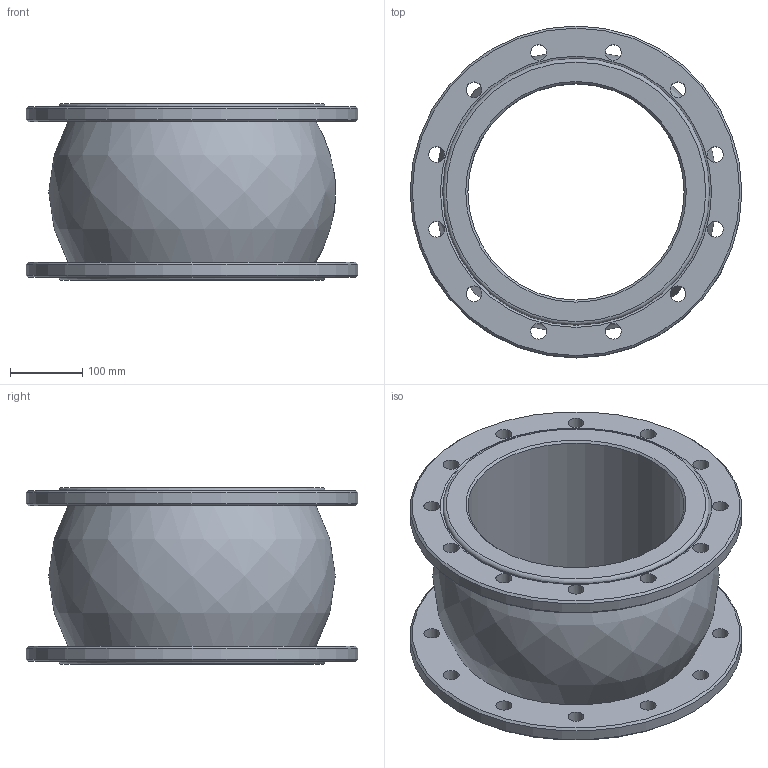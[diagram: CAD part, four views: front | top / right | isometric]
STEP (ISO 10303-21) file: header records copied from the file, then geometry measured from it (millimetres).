
FILE_DESCRIPTION(/* description */ ('D140-02097','CAx-IF Rec.Pracs.---Representation and Presentation of Product Manufacturing Information (PMI)---4.0---2014-10-13'),/* implementation_level */ '2;1');
FILE_NAME(/* name */ '',/* time_stamp */ '2026-03-11T00:51:12+03:00',/* author */ ('DN.RU'),/* organization */ ('DN.RU'),/* preprocessor_version */ 'ST-DEVELOPER v20',/* originating_system */ 'Autodesk Inventor 2025',/* authorisation */ '');
FILE_SCHEMA (('AP242_MANAGED_MODEL_BASED_3D_ENGINEERING_MIM_LF { 1 0 10303 442 1 1 4 }'));
Length unit declared in the file: millimetre
Products named in the file (1): CR-N34-F
Bounding box: 460 x 460 x 245 mm (x, y, z)
Volume: 12424817.1 mm3; surface area: 886712.5 mm2
Topology: 1 solids, 1 shells, 115 faces, 316 edges, 210 vertices
Faces by surface type: plane 43, bspline 34, cylinder 29, cone 7, torus 2
Full cylindrical faces by diameter (mm): 22 x24, 300 x1, 370 x2, 460 x2
Entity records: 4956 total; most frequent: CARTESIAN_POINT 1726, ORIENTED_EDGE 632, DIRECTION 616, EDGE_CURVE 316, AXIS2_PLACEMENT_3D 260, VERTEX_POINT 210, EDGE_LOOP 172, CIRCLE 165
